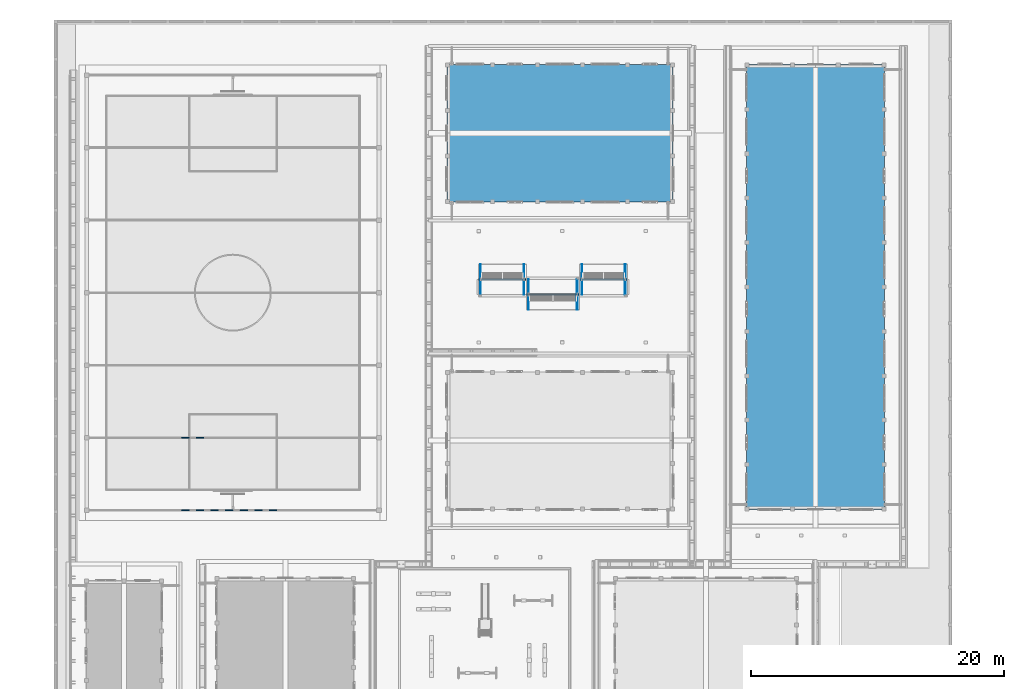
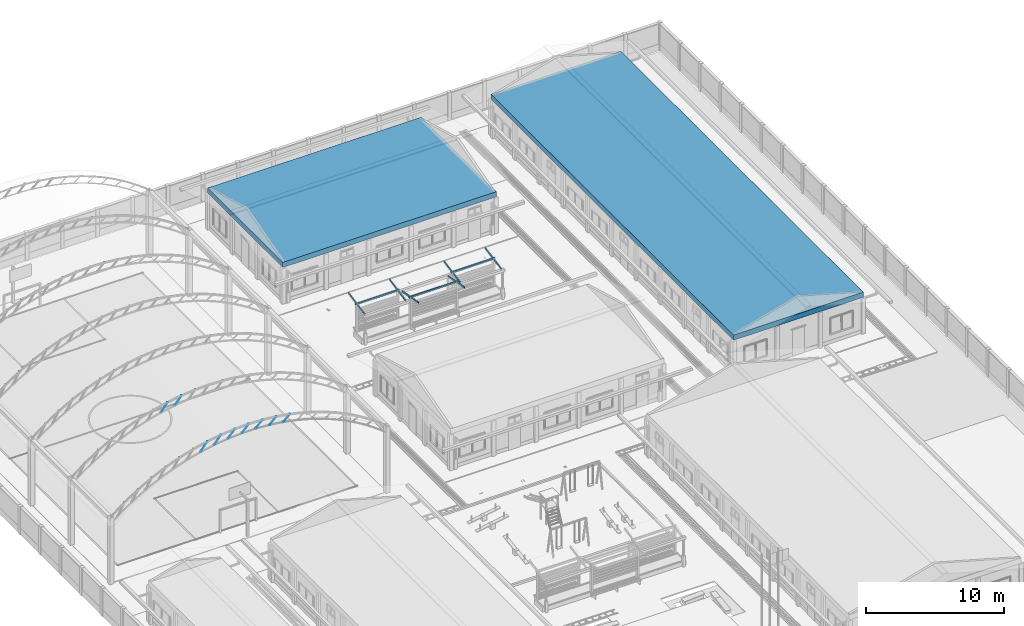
# One storey, part 24 of 151: 20 beams.
"""IFC2X3 building model written with IfcOpenShell, lengths in metres."""

from ifc_helpers import new_model, si_unit, origin, origin_with_axes, place, context, subcontext, project, spatial, faceted_brep, element, save


model = new_model("IFC2X3")

# Units and contexts
model_context = context("Model", 3, precision=1e-05, world=origin_with_axes())
body_context = subcontext(model_context, "Body", "Model", "MODEL_VIEW")
ifc_project = project(units=[si_unit("LENGTHUNIT", "METRE"), si_unit("AREAUNIT", "SQUARE_METRE"), si_unit("VOLUMEUNIT", "CUBIC_METRE"), si_unit("PLANEANGLEUNIT", "RADIAN")], contexts=[model_context])

# Site, building, storey
site_placement = place(None, origin_with_axes())
site = spatial("IfcSite", under=ifc_project, at=site_placement, Name="Predio Los Mangos - Morales, San Martín", CompositionType="ELEMENT")
building_placement = place(site_placement, origin())
building = spatial("IfcBuilding", under=site, at=building_placement, Name="Hogar de Refugio Temporal", CompositionType="ELEMENT")
storey_placement = place(building_placement, origin())
storey = spatial("IfcBuildingStorey", under=building, at=storey_placement, Name="NIVEL 1 (NPT +0.00)", CompositionType="ELEMENT", Elevation=0.0)

# Beams
beam_1_placement = place(storey_placement, origin())
element("IfcBeam", 1, at=beam_1_placement, inside=storey, Name="E-08_viga", ObjectType="Viga", context=body_context, shape_type="Brep", body=[
    faceted_brep([(31.96, 116.96, 3.3), (31.96, 127.84, 3.3), (49.84, 127.84, 3.3), (49.84, 116.96, 3.3), (31.96, 116.96, 3.75), (49.84, 116.96, 3.75), (49.84, 127.84, 3.75), (31.96, 127.84, 3.75)], [[[0, 1, 2, 3]], [[4, 5, 6, 7]], [[0, 3, 5, 4]], [[3, 2, 6, 5]], [[2, 1, 7, 6]], [[1, 0, 4, 7]]]),
])
beam_2_placement = place(storey_placement, origin())
element("IfcBeam", 2, at=beam_2_placement, inside=storey, Name="E-07_viga", ObjectType="Viga", context=body_context, shape_type="Brep", body=[
    faceted_brep([(55.66, 92.66, 3.3), (55.66, 127.84, 3.3), (66.54, 127.84, 3.3), (66.54, 92.66, 3.3), (55.66, 92.66, 3.75), (66.54, 92.66, 3.75), (66.54, 127.84, 3.75), (55.66, 127.84, 3.75)], [[[0, 1, 2, 3]], [[4, 5, 6, 7]], [[0, 3, 5, 4]], [[3, 2, 6, 5]], [[2, 1, 7, 6]], [[1, 0, 4, 7]]]),
])
beam_3_placement = place(storey_placement, origin())
element("IfcBeam", 3, at=beam_3_placement, inside=storey, Name="diag", ObjectType="Viga", context=body_context, shape_type="Brep", body=[
    faceted_brep([(10.9977, 92.6217, 9.0975), (11.5752, 92.6217, 9.8208), (11.585, 92.625, 9.813), (11.0075, 92.625, 9.0897), (10.9906, 92.6125, 9.1032), (11.5681, 92.6125, 9.8265), (10.988, 92.6, 9.1053), (11.5655, 92.6, 9.8286), (10.9906, 92.5875, 9.1032), (11.5681, 92.5875, 9.8265), (10.9977, 92.5783, 9.0975), (11.5752, 92.5783, 9.8208), (11.0075, 92.575, 9.0897), (11.585, 92.575, 9.813), (11.0173, 92.5783, 9.0819), (11.5948, 92.5783, 9.8052), (11.0244, 92.5875, 9.0762), (11.6019, 92.5875, 9.7995), (11.027, 92.6, 9.0741), (11.6045, 92.6, 9.7974), (11.0244, 92.6125, 9.0762), (11.6019, 92.6125, 9.7995), (11.0173, 92.6217, 9.0819), (11.5948, 92.6217, 9.8052), (11.0058, 92.6037, 9.091), (11.0075, 92.6043, 9.0897), (11.585, 92.6043, 9.813), (11.5833, 92.6037, 9.8143), (11.0046, 92.6021, 9.092), (11.5821, 92.6021, 9.8153), (11.0041, 92.6, 9.0924), (11.5816, 92.6, 9.8157), (11.0046, 92.5979, 9.092), (11.5821, 92.5979, 9.8153), (11.0058, 92.5963, 9.091), (11.5833, 92.5963, 9.8143), (11.0075, 92.5957, 9.0897), (11.585, 92.5957, 9.813), (11.0092, 92.5963, 9.0884), (11.5867, 92.5963, 9.8116), (11.0104, 92.5979, 9.0874), (11.5879, 92.5979, 9.8107), (11.0109, 92.6, 9.087), (11.5884, 92.6, 9.8103), (11.0104, 92.6021, 9.0874), (11.5879, 92.6021, 9.8107), (11.0092, 92.6037, 9.0884), (11.5867, 92.6037, 9.8116)], [[[0, 1, 2, 3]], [[4, 5, 1, 0]], [[6, 7, 5, 4]], [[8, 9, 7, 6]], [[10, 11, 9, 8]], [[12, 13, 11, 10]], [[14, 15, 13, 12]], [[16, 17, 15, 14]], [[18, 19, 17, 16]], [[20, 21, 19, 18]], [[22, 23, 21, 20]], [[3, 2, 23, 22]], [[24, 25, 26, 27]], [[28, 24, 27, 29]], [[30, 28, 29, 31]], [[32, 30, 31, 33]], [[34, 32, 33, 35]], [[36, 34, 35, 37]], [[38, 36, 37, 39]], [[40, 38, 39, 41]], [[42, 40, 41, 43]], [[44, 42, 43, 45]], [[46, 44, 45, 47]], [[25, 46, 47, 26]], [[6, 4, 28, 30]], [[16, 14, 38, 40]], [[0, 3, 25, 24]], [[9, 11, 35, 33]], [[19, 21, 45, 43]], [[12, 10, 34, 36]], [[22, 20, 44, 46]], [[5, 7, 31, 29]], [[15, 17, 41, 39]], [[2, 1, 27, 26]], [[8, 6, 30, 32]], [[18, 16, 40, 42]], [[11, 13, 37, 35]], [[21, 23, 47, 45]], [[4, 0, 24, 28]], [[14, 12, 36, 38]], [[3, 22, 46, 25]], [[7, 9, 33, 31]], [[17, 19, 43, 41]], [[23, 2, 26, 47]], [[10, 8, 32, 34]], [[20, 18, 42, 44]], [[1, 5, 29, 27]], [[13, 15, 39, 37]]]),
])
beam_4_placement = place(storey_placement, origin())
element("IfcBeam", 4, at=beam_4_placement, inside=storey, Name="diag", ObjectType="Viga", context=body_context, shape_type="Brep", body=[
    faceted_brep([(12.1529, 92.6217, 9.3247), (12.7304, 92.6217, 10.0091), (12.74, 92.625, 10.001), (12.1625, 92.625, 9.3166), (12.146, 92.6125, 9.3306), (12.7235, 92.6125, 10.015), (12.1434, 92.6, 9.3328), (12.7209, 92.6, 10.0171), (12.146, 92.5875, 9.3306), (12.7235, 92.5875, 10.015), (12.1529, 92.5783, 9.3247), (12.7304, 92.5783, 10.0091), (12.1625, 92.575, 9.3166), (12.74, 92.575, 10.001), (12.1721, 92.5783, 9.3086), (12.7496, 92.5783, 9.9929), (12.179, 92.5875, 9.3027), (12.7565, 92.5875, 9.987), (12.1816, 92.6, 9.3005), (12.7591, 92.6, 9.9849), (12.179, 92.6125, 9.3027), (12.7565, 92.6125, 9.987), (12.1721, 92.6217, 9.3086), (12.7496, 92.6217, 9.9929), (12.1609, 92.6037, 9.318), (12.1625, 92.6043, 9.3166), (12.74, 92.6043, 10.001), (12.7384, 92.6037, 10.0024), (12.1597, 92.6021, 9.319), (12.7372, 92.6021, 10.0034), (12.1592, 92.6, 9.3194), (12.7367, 92.6, 10.0038), (12.1597, 92.5979, 9.319), (12.7372, 92.5979, 10.0034), (12.1609, 92.5963, 9.318), (12.7384, 92.5963, 10.0024), (12.1625, 92.5957, 9.3166), (12.74, 92.5957, 10.001), (12.1641, 92.5963, 9.3153), (12.7416, 92.5963, 9.9996), (12.1653, 92.5979, 9.3142), (12.7428, 92.5979, 9.9986), (12.1658, 92.6, 9.3139), (12.7433, 92.6, 9.9982), (12.1653, 92.6021, 9.3142), (12.7428, 92.6021, 9.9986), (12.1641, 92.6037, 9.3153), (12.7416, 92.6037, 9.9996)], [[[0, 1, 2, 3]], [[4, 5, 1, 0]], [[6, 7, 5, 4]], [[8, 9, 7, 6]], [[10, 11, 9, 8]], [[12, 13, 11, 10]], [[14, 15, 13, 12]], [[16, 17, 15, 14]], [[18, 19, 17, 16]], [[20, 21, 19, 18]], [[22, 23, 21, 20]], [[3, 2, 23, 22]], [[24, 25, 26, 27]], [[28, 24, 27, 29]], [[30, 28, 29, 31]], [[32, 30, 31, 33]], [[34, 32, 33, 35]], [[36, 34, 35, 37]], [[38, 36, 37, 39]], [[40, 38, 39, 41]], [[42, 40, 41, 43]], [[44, 42, 43, 45]], [[46, 44, 45, 47]], [[25, 46, 47, 26]], [[6, 4, 28, 30]], [[16, 14, 38, 40]], [[0, 3, 25, 24]], [[9, 11, 35, 33]], [[19, 21, 45, 43]], [[12, 10, 34, 36]], [[22, 20, 44, 46]], [[5, 7, 31, 29]], [[15, 17, 41, 39]], [[2, 1, 27, 26]], [[8, 6, 30, 32]], [[18, 16, 40, 42]], [[11, 13, 37, 35]], [[21, 23, 47, 45]], [[4, 0, 24, 28]], [[14, 12, 36, 38]], [[3, 22, 46, 25]], [[7, 9, 33, 31]], [[17, 19, 43, 41]], [[23, 2, 26, 47]], [[10, 8, 32, 34]], [[20, 18, 42, 44]], [[1, 5, 29, 27]], [[13, 15, 39, 37]]]),
])
beam_5_placement = place(storey_placement, origin())
element("IfcBeam", 5, at=beam_5_placement, inside=storey, Name="diag", ObjectType="Viga", context=body_context, shape_type="Brep", body=[
    faceted_brep([(13.3082, 92.6217, 9.4747), (13.8857, 92.6217, 10.1212), (13.895, 92.625, 10.1129), (13.3175, 92.625, 9.4663), (13.3014, 92.6125, 9.4808), (13.8789, 92.6125, 10.1273), (13.2989, 92.6, 9.483), (13.8764, 92.6, 10.1295), (13.3014, 92.5875, 9.4808), (13.8789, 92.5875, 10.1273), (13.3082, 92.5783, 9.4747), (13.8857, 92.5783, 10.1212), (13.3175, 92.575, 9.4663), (13.895, 92.575, 10.1129), (13.3268, 92.5783, 9.458), (13.9043, 92.5783, 10.1045), (13.3336, 92.5875, 9.4519), (13.9111, 92.5875, 10.0984), (13.3361, 92.6, 9.4497), (13.9136, 92.6, 10.0962), (13.3336, 92.6125, 9.4519), (13.9111, 92.6125, 10.0984), (13.3268, 92.6217, 9.458), (13.9043, 92.6217, 10.1045), (13.3159, 92.6037, 9.4678), (13.3175, 92.6043, 9.4663), (13.895, 92.6043, 10.1129), (13.8934, 92.6037, 10.1143), (13.3147, 92.6021, 9.4688), (13.8922, 92.6021, 10.1153), (13.3143, 92.6, 9.4692), (13.8918, 92.6, 10.1157), (13.3147, 92.5979, 9.4688), (13.8922, 92.5979, 10.1153), (13.3159, 92.5963, 9.4678), (13.8934, 92.5963, 10.1143), (13.3175, 92.5957, 9.4663), (13.895, 92.5957, 10.1129), (13.3191, 92.5963, 9.4649), (13.8966, 92.5963, 10.1114), (13.3203, 92.5979, 9.4639), (13.8978, 92.5979, 10.1104), (13.3207, 92.6, 9.4635), (13.8982, 92.6, 10.11), (13.3203, 92.6021, 9.4639), (13.8978, 92.6021, 10.1104), (13.3191, 92.6037, 9.4649), (13.8966, 92.6037, 10.1114)], [[[0, 1, 2, 3]], [[4, 5, 1, 0]], [[6, 7, 5, 4]], [[8, 9, 7, 6]], [[10, 11, 9, 8]], [[12, 13, 11, 10]], [[14, 15, 13, 12]], [[16, 17, 15, 14]], [[18, 19, 17, 16]], [[20, 21, 19, 18]], [[22, 23, 21, 20]], [[3, 2, 23, 22]], [[24, 25, 26, 27]], [[28, 24, 27, 29]], [[30, 28, 29, 31]], [[32, 30, 31, 33]], [[34, 32, 33, 35]], [[36, 34, 35, 37]], [[38, 36, 37, 39]], [[40, 38, 39, 41]], [[42, 40, 41, 43]], [[44, 42, 43, 45]], [[46, 44, 45, 47]], [[25, 46, 47, 26]], [[6, 4, 28, 30]], [[16, 14, 38, 40]], [[0, 3, 25, 24]], [[9, 11, 35, 33]], [[19, 21, 45, 43]], [[12, 10, 34, 36]], [[22, 20, 44, 46]], [[5, 7, 31, 29]], [[15, 17, 41, 39]], [[2, 1, 27, 26]], [[8, 6, 30, 32]], [[18, 16, 40, 42]], [[11, 13, 37, 35]], [[21, 23, 47, 45]], [[4, 0, 24, 28]], [[14, 12, 36, 38]], [[3, 22, 46, 25]], [[7, 9, 33, 31]], [[17, 19, 43, 41]], [[23, 2, 26, 47]], [[10, 8, 32, 34]], [[20, 18, 42, 44]], [[1, 5, 29, 27]], [[13, 15, 39, 37]]]),
])
beam_6_placement = place(storey_placement, origin())
element("IfcBeam", 6, at=beam_6_placement, inside=storey, Name="diag", ObjectType="Viga", context=body_context, shape_type="Brep", body=[
    faceted_brep([(14.4634, 92.6217, 9.5493), (15.0409, 92.6217, 10.1586), (15.05, 92.625, 10.15), (14.4725, 92.625, 9.5407), (14.4568, 92.6125, 9.5556), (15.0343, 92.6125, 10.1649), (14.4544, 92.6, 9.5579), (15.0319, 92.6, 10.1672), (14.4568, 92.5875, 9.5556), (15.0343, 92.5875, 10.1649), (14.4634, 92.5783, 9.5493), (15.0409, 92.5783, 10.1586), (14.4725, 92.575, 9.5407), (15.05, 92.575, 10.15), (14.4816, 92.5783, 9.5321), (15.0591, 92.5783, 10.1414), (14.4882, 92.5875, 9.5258), (15.0657, 92.5875, 10.1351), (14.4906, 92.6, 9.5235), (15.0681, 92.6, 10.1328), (14.4882, 92.6125, 9.5258), (15.0657, 92.6125, 10.1351), (14.4816, 92.6217, 9.5321), (15.0591, 92.6217, 10.1414), (14.4709, 92.6037, 9.5422), (14.4725, 92.6043, 9.5407), (15.05, 92.6043, 10.15), (15.0484, 92.6037, 10.1515), (14.4698, 92.6021, 9.5433), (15.0473, 92.6021, 10.1526), (14.4694, 92.6, 9.5437), (15.0469, 92.6, 10.153), (14.4698, 92.5979, 9.5433), (15.0473, 92.5979, 10.1526), (14.4709, 92.5963, 9.5422), (15.0484, 92.5963, 10.1515), (14.4725, 92.5957, 9.5407), (15.05, 92.5957, 10.15), (14.4741, 92.5963, 9.5392), (15.0516, 92.5963, 10.1485), (14.4752, 92.5979, 9.5382), (15.0527, 92.5979, 10.1474), (14.4756, 92.6, 9.5378), (15.0531, 92.6, 10.147), (14.4752, 92.6021, 9.5382), (15.0527, 92.6021, 10.1474), (14.4741, 92.6037, 9.5392), (15.0516, 92.6037, 10.1485)], [[[0, 1, 2, 3]], [[4, 5, 1, 0]], [[6, 7, 5, 4]], [[8, 9, 7, 6]], [[10, 11, 9, 8]], [[12, 13, 11, 10]], [[14, 15, 13, 12]], [[16, 17, 15, 14]], [[18, 19, 17, 16]], [[20, 21, 19, 18]], [[22, 23, 21, 20]], [[3, 2, 23, 22]], [[24, 25, 26, 27]], [[28, 24, 27, 29]], [[30, 28, 29, 31]], [[32, 30, 31, 33]], [[34, 32, 33, 35]], [[36, 34, 35, 37]], [[38, 36, 37, 39]], [[40, 38, 39, 41]], [[42, 40, 41, 43]], [[44, 42, 43, 45]], [[46, 44, 45, 47]], [[25, 46, 47, 26]], [[15, 17, 41, 39]], [[2, 1, 27, 26]], [[8, 6, 30, 32]], [[18, 16, 40, 42]], [[11, 13, 37, 35]], [[21, 23, 47, 45]], [[4, 0, 24, 28]], [[14, 12, 36, 38]], [[3, 22, 46, 25]], [[7, 9, 33, 31]], [[17, 19, 43, 41]], [[23, 2, 26, 47]], [[10, 8, 32, 34]], [[20, 18, 42, 44]], [[1, 5, 29, 27]], [[13, 15, 39, 37]], [[6, 4, 28, 30]], [[16, 14, 38, 40]], [[0, 3, 25, 24]], [[9, 11, 35, 33]], [[19, 21, 45, 43]], [[12, 10, 34, 36]], [[22, 20, 44, 46]], [[5, 7, 31, 29]]]),
])
beam_7_placement = place(storey_placement, origin())
element("IfcBeam", 7, at=beam_7_placement, inside=storey, Name="diag", ObjectType="Viga", context=body_context, shape_type="Brep", body=[
    faceted_brep([(15.6187, 92.6217, 9.5496), (16.1962, 92.6217, 10.1217), (16.205, 92.625, 10.1129), (15.6275, 92.625, 9.5407), (15.6123, 92.6125, 9.5561), (16.1898, 92.6125, 10.1282), (15.6099, 92.6, 9.5585), (16.1874, 92.6, 10.1306), (15.6123, 92.5875, 9.5561), (16.1898, 92.5875, 10.1282), (15.6187, 92.5783, 9.5496), (16.1962, 92.5783, 10.1217), (15.6275, 92.575, 9.5407), (16.205, 92.575, 10.1129), (15.6363, 92.5783, 9.5318), (16.2138, 92.5783, 10.104), (15.6427, 92.5875, 9.5253), (16.2202, 92.5875, 10.0975), (15.6451, 92.6, 9.523), (16.2226, 92.6, 10.0951), (15.6427, 92.6125, 9.5253), (16.2202, 92.6125, 10.0975), (15.6363, 92.6217, 9.5318), (16.2138, 92.6217, 10.104), (15.626, 92.6037, 9.5422), (15.6275, 92.6043, 9.5407), (16.205, 92.6043, 10.1129), (16.2035, 92.6037, 10.1144), (15.6249, 92.6021, 9.5434), (16.2024, 92.6021, 10.1155), (15.6245, 92.6, 9.5438), (16.202, 92.6, 10.1159), (15.6249, 92.5979, 9.5434), (16.2024, 92.5979, 10.1155), (15.626, 92.5963, 9.5422), (16.2035, 92.5963, 10.1144), (15.6275, 92.5957, 9.5407), (16.205, 92.5957, 10.1129), (15.629, 92.5963, 9.5392), (16.2065, 92.5963, 10.1113), (15.6301, 92.5979, 9.5381), (16.2076, 92.5979, 10.1102), (15.6305, 92.6, 9.5377), (16.208, 92.6, 10.1098), (15.6301, 92.6021, 9.5381), (16.2076, 92.6021, 10.1102), (15.629, 92.6037, 9.5392), (16.2065, 92.6037, 10.1113)], [[[0, 1, 2, 3]], [[4, 5, 1, 0]], [[6, 7, 5, 4]], [[8, 9, 7, 6]], [[10, 11, 9, 8]], [[12, 13, 11, 10]], [[14, 15, 13, 12]], [[16, 17, 15, 14]], [[18, 19, 17, 16]], [[20, 21, 19, 18]], [[22, 23, 21, 20]], [[3, 2, 23, 22]], [[24, 25, 26, 27]], [[28, 24, 27, 29]], [[30, 28, 29, 31]], [[32, 30, 31, 33]], [[34, 32, 33, 35]], [[36, 34, 35, 37]], [[38, 36, 37, 39]], [[40, 38, 39, 41]], [[42, 40, 41, 43]], [[44, 42, 43, 45]], [[46, 44, 45, 47]], [[25, 46, 47, 26]], [[15, 17, 41, 39]], [[2, 1, 27, 26]], [[8, 6, 30, 32]], [[18, 16, 40, 42]], [[11, 13, 37, 35]], [[21, 23, 47, 45]], [[4, 0, 24, 28]], [[14, 12, 36, 38]], [[3, 22, 46, 25]], [[7, 9, 33, 31]], [[17, 19, 43, 41]], [[23, 2, 26, 47]], [[10, 8, 32, 34]], [[20, 18, 42, 44]], [[1, 5, 29, 27]], [[13, 15, 39, 37]], [[6, 4, 28, 30]], [[16, 14, 38, 40]], [[0, 3, 25, 24]], [[9, 11, 35, 33]], [[19, 21, 45, 43]], [[12, 10, 34, 36]], [[22, 20, 44, 46]], [[5, 7, 31, 29]]]),
])
beam_8_placement = place(storey_placement, origin())
element("IfcBeam", 8, at=beam_8_placement, inside=storey, Name="diag", ObjectType="Viga", context=body_context, shape_type="Brep", body=[
    faceted_brep([(16.774, 92.6217, 9.4755), (17.3515, 92.6217, 10.0102), (17.36, 92.625, 10.001), (16.7825, 92.625, 9.4663), (16.7678, 92.6125, 9.4822), (17.3453, 92.6125, 10.0169), (16.7655, 92.6, 9.4847), (17.343, 92.6, 10.0193), (16.7678, 92.5875, 9.4822), (17.3453, 92.5875, 10.0169), (16.774, 92.5783, 9.4755), (17.3515, 92.5783, 10.0102), (16.7825, 92.575, 9.4663), (17.36, 92.575, 10.001), (16.791, 92.5783, 9.4572), (17.3685, 92.5783, 9.9918), (16.7972, 92.5875, 9.4505), (17.3747, 92.5875, 9.9851), (16.7995, 92.6, 9.448), (17.377, 92.6, 9.9827), (16.7972, 92.6125, 9.4505), (17.3747, 92.6125, 9.9851), (16.791, 92.6217, 9.4572), (17.3685, 92.6217, 9.9918), (16.781, 92.6037, 9.4679), (16.7825, 92.6043, 9.4663), (17.36, 92.6043, 10.001), (17.3585, 92.6037, 10.0026), (16.78, 92.6021, 9.4691), (17.3575, 92.6021, 10.0037), (16.7796, 92.6, 9.4695), (17.3571, 92.6, 10.0042), (16.78, 92.5979, 9.4691), (17.3575, 92.5979, 10.0037), (16.781, 92.5963, 9.4679), (17.3585, 92.5963, 10.0026), (16.7825, 92.5957, 9.4663), (17.36, 92.5957, 10.001), (16.784, 92.5963, 9.4648), (17.3615, 92.5963, 9.9994), (16.785, 92.5979, 9.4636), (17.3625, 92.5979, 9.9983), (16.7854, 92.6, 9.4632), (17.3629, 92.6, 9.9979), (16.785, 92.6021, 9.4636), (17.3625, 92.6021, 9.9983), (16.784, 92.6037, 9.4648), (17.3615, 92.6037, 9.9994)], [[[0, 1, 2, 3]], [[4, 5, 1, 0]], [[6, 7, 5, 4]], [[8, 9, 7, 6]], [[10, 11, 9, 8]], [[12, 13, 11, 10]], [[14, 15, 13, 12]], [[16, 17, 15, 14]], [[18, 19, 17, 16]], [[20, 21, 19, 18]], [[22, 23, 21, 20]], [[3, 2, 23, 22]], [[24, 25, 26, 27]], [[28, 24, 27, 29]], [[30, 28, 29, 31]], [[32, 30, 31, 33]], [[34, 32, 33, 35]], [[36, 34, 35, 37]], [[38, 36, 37, 39]], [[40, 38, 39, 41]], [[42, 40, 41, 43]], [[44, 42, 43, 45]], [[46, 44, 45, 47]], [[25, 46, 47, 26]], [[15, 17, 41, 39]], [[2, 1, 27, 26]], [[8, 6, 30, 32]], [[18, 16, 40, 42]], [[11, 13, 37, 35]], [[21, 23, 47, 45]], [[4, 0, 24, 28]], [[14, 12, 36, 38]], [[3, 22, 46, 25]], [[7, 9, 33, 31]], [[17, 19, 43, 41]], [[23, 2, 26, 47]], [[10, 8, 32, 34]], [[20, 18, 42, 44]], [[1, 5, 29, 27]], [[13, 15, 39, 37]], [[6, 4, 28, 30]], [[16, 14, 38, 40]], [[0, 3, 25, 24]], [[9, 11, 35, 33]], [[19, 21, 45, 43]], [[12, 10, 34, 36]], [[22, 20, 44, 46]], [[5, 7, 31, 29]]]),
])
beam_9_placement = place(storey_placement, origin())
element("IfcBeam", 9, at=beam_9_placement, inside=storey, Name="diag", ObjectType="Viga", context=body_context, shape_type="Brep", body=[
    faceted_brep([(17.9294, 92.6217, 9.3261), (18.5069, 92.6217, 9.8225), (18.515, 92.625, 9.813), (17.9375, 92.625, 9.3166), (17.9234, 92.6125, 9.3331), (18.5009, 92.6125, 9.8294), (17.9212, 92.6, 9.3356), (18.4987, 92.6, 9.8319), (17.9234, 92.5875, 9.3331), (18.5009, 92.5875, 9.8294), (17.9294, 92.5783, 9.3261), (18.5069, 92.5783, 9.8225), (17.9375, 92.575, 9.3166), (18.515, 92.575, 9.813), (17.9456, 92.5783, 9.3072), (18.5231, 92.5783, 9.8035), (17.9516, 92.5875, 9.3002), (18.5291, 92.5875, 9.7966), (17.9538, 92.6, 9.2977), (18.5313, 92.6, 9.794), (17.9516, 92.6125, 9.3002), (18.5291, 92.6125, 9.7966), (17.9456, 92.6217, 9.3072), (18.5231, 92.6217, 9.8035), (17.9361, 92.6037, 9.3183), (17.9375, 92.6043, 9.3166), (18.515, 92.6043, 9.813), (18.5136, 92.6037, 9.8146), (17.9351, 92.6021, 9.3195), (18.5126, 92.6021, 9.8158), (17.9347, 92.6, 9.3199), (18.5122, 92.6, 9.8162), (17.9351, 92.5979, 9.3195), (18.5126, 92.5979, 9.8158), (17.9361, 92.5963, 9.3183), (18.5136, 92.5963, 9.8146), (17.9375, 92.5957, 9.3166), (18.515, 92.5957, 9.813), (17.9389, 92.5963, 9.315), (18.5164, 92.5963, 9.8114), (17.9399, 92.5979, 9.3138), (18.5174, 92.5979, 9.8102), (17.9403, 92.6, 9.3134), (18.5178, 92.6, 9.8097), (17.9399, 92.6021, 9.3138), (18.5174, 92.6021, 9.8102), (17.9389, 92.6037, 9.315), (18.5164, 92.6037, 9.8114)], [[[0, 1, 2, 3]], [[4, 5, 1, 0]], [[6, 7, 5, 4]], [[8, 9, 7, 6]], [[10, 11, 9, 8]], [[12, 13, 11, 10]], [[14, 15, 13, 12]], [[16, 17, 15, 14]], [[18, 19, 17, 16]], [[20, 21, 19, 18]], [[22, 23, 21, 20]], [[3, 2, 23, 22]], [[24, 25, 26, 27]], [[28, 24, 27, 29]], [[30, 28, 29, 31]], [[32, 30, 31, 33]], [[34, 32, 33, 35]], [[36, 34, 35, 37]], [[38, 36, 37, 39]], [[40, 38, 39, 41]], [[42, 40, 41, 43]], [[44, 42, 43, 45]], [[46, 44, 45, 47]], [[25, 46, 47, 26]], [[6, 4, 28, 30]], [[16, 14, 38, 40]], [[0, 3, 25, 24]], [[9, 11, 35, 33]], [[19, 21, 45, 43]], [[12, 10, 34, 36]], [[22, 20, 44, 46]], [[5, 7, 31, 29]], [[15, 17, 41, 39]], [[2, 1, 27, 26]], [[8, 6, 30, 32]], [[18, 16, 40, 42]], [[11, 13, 37, 35]], [[21, 23, 47, 45]], [[4, 0, 24, 28]], [[14, 12, 36, 38]], [[3, 22, 46, 25]], [[7, 9, 33, 31]], [[17, 19, 43, 41]], [[23, 2, 26, 47]], [[10, 8, 32, 34]], [[20, 18, 42, 44]], [[1, 5, 29, 27]], [[13, 15, 39, 37]]]),
])
beam_10_placement = place(storey_placement, origin())
element("IfcBeam", 10, at=beam_10_placement, inside=storey, Name="diag", ObjectType="Viga", context=body_context, shape_type="Brep", body=[
    faceted_brep([(10.9977, 98.355, 9.0975), (11.5752, 98.355, 9.8208), (11.585, 98.3583, 9.813), (11.0075, 98.3583, 9.0897), (10.9906, 98.3458, 9.1032), (11.5681, 98.3458, 9.8265), (10.988, 98.3333, 9.1053), (11.5655, 98.3333, 9.8286), (10.9906, 98.3208, 9.1032), (11.5681, 98.3208, 9.8265), (10.9977, 98.3117, 9.0975), (11.5752, 98.3117, 9.8208), (11.0075, 98.3083, 9.0897), (11.585, 98.3083, 9.813), (11.0173, 98.3117, 9.0819), (11.5948, 98.3117, 9.8052), (11.0244, 98.3208, 9.0762), (11.6019, 98.3208, 9.7995), (11.027, 98.3333, 9.0741), (11.6045, 98.3333, 9.7974), (11.0244, 98.3458, 9.0762), (11.6019, 98.3458, 9.7995), (11.0173, 98.355, 9.0819), (11.5948, 98.355, 9.8052), (11.0058, 98.3371, 9.091), (11.0075, 98.3376, 9.0897), (11.585, 98.3376, 9.813), (11.5833, 98.3371, 9.8143), (11.0046, 98.3355, 9.092), (11.5821, 98.3355, 9.8153), (11.0041, 98.3333, 9.0924), (11.5816, 98.3333, 9.8157), (11.0046, 98.3312, 9.092), (11.5821, 98.3312, 9.8153), (11.0058, 98.3296, 9.091), (11.5833, 98.3296, 9.8143), (11.0075, 98.329, 9.0897), (11.585, 98.329, 9.813), (11.0092, 98.3296, 9.0884), (11.5867, 98.3296, 9.8116), (11.0104, 98.3312, 9.0874), (11.5879, 98.3312, 9.8107), (11.0109, 98.3333, 9.087), (11.5884, 98.3333, 9.8103), (11.0104, 98.3355, 9.0874), (11.5879, 98.3355, 9.8107), (11.0092, 98.3371, 9.0884), (11.5867, 98.3371, 9.8116)], [[[0, 1, 2, 3]], [[4, 5, 1, 0]], [[6, 7, 5, 4]], [[8, 9, 7, 6]], [[10, 11, 9, 8]], [[12, 13, 11, 10]], [[14, 15, 13, 12]], [[16, 17, 15, 14]], [[18, 19, 17, 16]], [[20, 21, 19, 18]], [[22, 23, 21, 20]], [[3, 2, 23, 22]], [[24, 25, 26, 27]], [[28, 24, 27, 29]], [[30, 28, 29, 31]], [[32, 30, 31, 33]], [[34, 32, 33, 35]], [[36, 34, 35, 37]], [[38, 36, 37, 39]], [[40, 38, 39, 41]], [[42, 40, 41, 43]], [[44, 42, 43, 45]], [[46, 44, 45, 47]], [[25, 46, 47, 26]], [[12, 10, 34, 36]], [[22, 20, 44, 46]], [[5, 7, 31, 29]], [[15, 17, 41, 39]], [[2, 1, 27, 26]], [[8, 6, 30, 32]], [[18, 16, 40, 42]], [[11, 13, 37, 35]], [[21, 23, 47, 45]], [[4, 0, 24, 28]], [[14, 12, 36, 38]], [[3, 22, 46, 25]], [[7, 9, 33, 31]], [[17, 19, 43, 41]], [[23, 2, 26, 47]], [[10, 8, 32, 34]], [[20, 18, 42, 44]], [[1, 5, 29, 27]], [[13, 15, 39, 37]], [[6, 4, 28, 30]], [[16, 14, 38, 40]], [[0, 3, 25, 24]], [[9, 11, 35, 33]], [[19, 21, 45, 43]]]),
])
beam_11_placement = place(storey_placement, origin())
element("IfcBeam", 11, at=beam_11_placement, inside=storey, Name="diag", ObjectType="Viga", context=body_context, shape_type="Brep", body=[
    faceted_brep([(12.1529, 98.355, 9.3247), (12.7304, 98.355, 10.0091), (12.74, 98.3583, 10.001), (12.1625, 98.3583, 9.3166), (12.146, 98.3458, 9.3306), (12.7235, 98.3458, 10.015), (12.1434, 98.3333, 9.3328), (12.7209, 98.3333, 10.0171), (12.146, 98.3208, 9.3306), (12.7235, 98.3208, 10.015), (12.1529, 98.3117, 9.3247), (12.7304, 98.3117, 10.0091), (12.1625, 98.3083, 9.3166), (12.74, 98.3083, 10.001), (12.1721, 98.3117, 9.3086), (12.7496, 98.3117, 9.9929), (12.179, 98.3208, 9.3027), (12.7565, 98.3208, 9.987), (12.1816, 98.3333, 9.3005), (12.7591, 98.3333, 9.9849), (12.179, 98.3458, 9.3027), (12.7565, 98.3458, 9.987), (12.1721, 98.355, 9.3086), (12.7496, 98.355, 9.9929), (12.1609, 98.3371, 9.318), (12.1625, 98.3376, 9.3166), (12.74, 98.3376, 10.001), (12.7384, 98.3371, 10.0024), (12.1597, 98.3355, 9.319), (12.7372, 98.3355, 10.0034), (12.1592, 98.3333, 9.3194), (12.7367, 98.3333, 10.0038), (12.1597, 98.3312, 9.319), (12.7372, 98.3312, 10.0034), (12.1609, 98.3296, 9.318), (12.7384, 98.3296, 10.0024), (12.1625, 98.329, 9.3166), (12.74, 98.329, 10.001), (12.1641, 98.3296, 9.3153), (12.7416, 98.3296, 9.9996), (12.1653, 98.3312, 9.3142), (12.7428, 98.3312, 9.9986), (12.1658, 98.3333, 9.3139), (12.7433, 98.3333, 9.9982), (12.1653, 98.3355, 9.3142), (12.7428, 98.3355, 9.9986), (12.1641, 98.3371, 9.3153), (12.7416, 98.3371, 9.9996)], [[[0, 1, 2, 3]], [[4, 5, 1, 0]], [[6, 7, 5, 4]], [[8, 9, 7, 6]], [[10, 11, 9, 8]], [[12, 13, 11, 10]], [[14, 15, 13, 12]], [[16, 17, 15, 14]], [[18, 19, 17, 16]], [[20, 21, 19, 18]], [[22, 23, 21, 20]], [[3, 2, 23, 22]], [[24, 25, 26, 27]], [[28, 24, 27, 29]], [[30, 28, 29, 31]], [[32, 30, 31, 33]], [[34, 32, 33, 35]], [[36, 34, 35, 37]], [[38, 36, 37, 39]], [[40, 38, 39, 41]], [[42, 40, 41, 43]], [[44, 42, 43, 45]], [[46, 44, 45, 47]], [[25, 46, 47, 26]], [[12, 10, 34, 36]], [[22, 20, 44, 46]], [[5, 7, 31, 29]], [[15, 17, 41, 39]], [[2, 1, 27, 26]], [[8, 6, 30, 32]], [[18, 16, 40, 42]], [[11, 13, 37, 35]], [[21, 23, 47, 45]], [[4, 0, 24, 28]], [[14, 12, 36, 38]], [[3, 22, 46, 25]], [[7, 9, 33, 31]], [[17, 19, 43, 41]], [[23, 2, 26, 47]], [[10, 8, 32, 34]], [[20, 18, 42, 44]], [[1, 5, 29, 27]], [[13, 15, 39, 37]], [[6, 4, 28, 30]], [[16, 14, 38, 40]], [[0, 3, 25, 24]], [[9, 11, 35, 33]], [[19, 21, 45, 43]]]),
])
beam_12_placement = place(storey_placement, origin())
element("IfcBeam", 12, at=beam_12_placement, inside=storey, Name="oc01_viga", ObjectType="Viga", context=body_context, shape_type="Brep", body=[
    faceted_brep([(46.195, 110.9, 2.81), (46.195, 110.8, 2.81), (42.505, 110.8, 2.81), (42.505, 110.9, 2.81), (46.195, 110.9, 2.93), (42.505, 110.9, 2.93), (42.505, 110.8, 2.93), (46.195, 110.8, 2.93)], [[[0, 1, 2, 3]], [[4, 5, 6, 7]], [[0, 3, 5, 4]], [[3, 2, 6, 5]], [[2, 1, 7, 6]], [[1, 0, 4, 7]]]),
])
beam_13_placement = place(storey_placement, origin())
element("IfcBeam", 13, at=beam_13_placement, inside=storey, Name="oc01_correa", ObjectType="Viga", context=body_context, shape_type="Brep", body=[
    faceted_brep([(46.09, 109.6594, 2.5909), (46.04, 109.6594, 2.5909), (46.04, 112.0594, 3.0509), (46.09, 112.0594, 3.0509), (46.09, 109.6406, 2.6891), (46.09, 112.0406, 3.1491), (46.04, 112.0406, 3.1491), (46.04, 109.6406, 2.6891)], [[[0, 1, 2, 3]], [[4, 5, 6, 7]], [[0, 3, 5, 4]], [[3, 2, 6, 5]], [[2, 1, 7, 6]], [[1, 0, 4, 7]]]),
])
beam_14_placement = place(storey_placement, origin())
element("IfcBeam", 14, at=beam_14_placement, inside=storey, Name="oc01_correa", ObjectType="Viga", context=body_context, shape_type="Brep", body=[
    faceted_brep([(42.66, 109.6594, 2.5909), (42.61, 109.6594, 2.5909), (42.61, 112.0594, 3.0509), (42.66, 112.0594, 3.0509), (42.66, 109.6406, 2.6891), (42.66, 112.0406, 3.1491), (42.61, 112.0406, 3.1491), (42.61, 109.6406, 2.6891)], [[[0, 1, 2, 3]], [[4, 5, 6, 7]], [[0, 3, 5, 4]], [[3, 2, 6, 5]], [[2, 1, 7, 6]], [[1, 0, 4, 7]]]),
])
beam_15_placement = place(storey_placement, origin())
element("IfcBeam", 15, at=beam_15_placement, inside=storey, Name="oc01_viga", ObjectType="Viga", context=body_context, shape_type="Brep", body=[
    faceted_brep([(42.405, 109.7, 2.81), (42.405, 109.6, 2.81), (38.295, 109.6, 2.81), (38.295, 109.7, 2.81), (42.405, 109.7, 2.93), (38.295, 109.7, 2.93), (38.295, 109.6, 2.93), (42.405, 109.6, 2.93)], [[[0, 1, 2, 3]], [[4, 5, 6, 7]], [[0, 3, 5, 4]], [[3, 2, 6, 5]], [[2, 1, 7, 6]], [[1, 0, 4, 7]]]),
])
beam_16_placement = place(storey_placement, origin())
element("IfcBeam", 16, at=beam_16_placement, inside=storey, Name="oc01_correa", ObjectType="Viga", context=body_context, shape_type="Brep", body=[
    faceted_brep([(42.25, 110.8406, 2.5909), (42.3, 110.8406, 2.5909), (42.3, 108.4406, 3.0509), (42.25, 108.4406, 3.0509), (42.25, 110.8594, 2.6891), (42.25, 108.4594, 3.1491), (42.3, 108.4594, 3.1491), (42.3, 110.8594, 2.6891)], [[[0, 1, 2, 3]], [[4, 5, 6, 7]], [[0, 3, 5, 4]], [[3, 2, 6, 5]], [[2, 1, 7, 6]], [[1, 0, 4, 7]]]),
])
beam_17_placement = place(storey_placement, origin())
element("IfcBeam", 17, at=beam_17_placement, inside=storey, Name="oc01_correa", ObjectType="Viga", context=body_context, shape_type="Brep", body=[
    faceted_brep([(38.4, 110.8406, 2.5909), (38.45, 110.8406, 2.5909), (38.45, 108.4406, 3.0509), (38.4, 108.4406, 3.0509), (38.4, 110.8594, 2.6891), (38.4, 108.4594, 3.1491), (38.45, 108.4594, 3.1491), (38.45, 110.8594, 2.6891)], [[[0, 1, 2, 3]], [[4, 5, 6, 7]], [[0, 3, 5, 4]], [[3, 2, 6, 5]], [[2, 1, 7, 6]], [[1, 0, 4, 7]]]),
])
beam_18_placement = place(storey_placement, origin())
element("IfcBeam", 18, at=beam_18_placement, inside=storey, Name="oc01_viga", ObjectType="Viga", context=body_context, shape_type="Brep", body=[
    faceted_brep([(38.195, 110.9, 2.81), (38.195, 110.8, 2.81), (34.505, 110.8, 2.81), (34.505, 110.9, 2.81), (38.195, 110.9, 2.93), (34.505, 110.9, 2.93), (34.505, 110.8, 2.93), (38.195, 110.8, 2.93)], [[[0, 1, 2, 3]], [[4, 5, 6, 7]], [[0, 3, 5, 4]], [[3, 2, 6, 5]], [[2, 1, 7, 6]], [[1, 0, 4, 7]]]),
])
beam_19_placement = place(storey_placement, origin())
element("IfcBeam", 19, at=beam_19_placement, inside=storey, Name="oc01_correa", ObjectType="Viga", context=body_context, shape_type="Brep", body=[
    faceted_brep([(38.09, 109.6594, 2.5909), (38.04, 109.6594, 2.5909), (38.04, 112.0594, 3.0509), (38.09, 112.0594, 3.0509), (38.09, 109.6406, 2.6891), (38.09, 112.0406, 3.1491), (38.04, 112.0406, 3.1491), (38.04, 109.6406, 2.6891)], [[[0, 1, 2, 3]], [[4, 5, 6, 7]], [[0, 3, 5, 4]], [[3, 2, 6, 5]], [[2, 1, 7, 6]], [[1, 0, 4, 7]]]),
])
beam_20_placement = place(storey_placement, origin())
element("IfcBeam", 20, at=beam_20_placement, inside=storey, Name="oc01_correa", ObjectType="Viga", context=body_context, shape_type="Brep", body=[
    faceted_brep([(34.66, 109.6594, 2.5909), (34.61, 109.6594, 2.5909), (34.61, 112.0594, 3.0509), (34.66, 112.0594, 3.0509), (34.66, 109.6406, 2.6891), (34.66, 112.0406, 3.1491), (34.61, 112.0406, 3.1491), (34.61, 109.6406, 2.6891)], [[[0, 1, 2, 3]], [[4, 5, 6, 7]], [[0, 3, 5, 4]], [[3, 2, 6, 5]], [[2, 1, 7, 6]], [[1, 0, 4, 7]]]),
])

save(model, "model.ifc")
